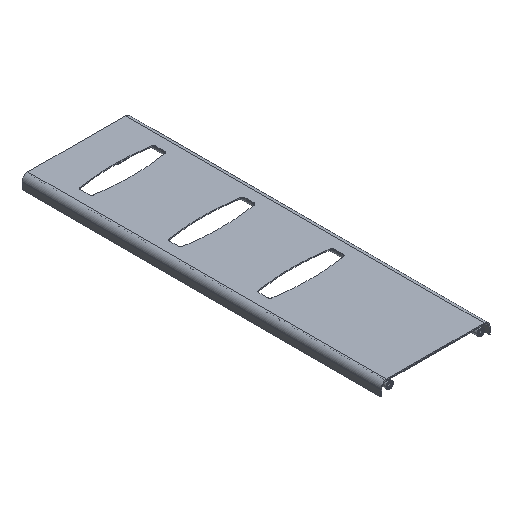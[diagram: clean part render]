
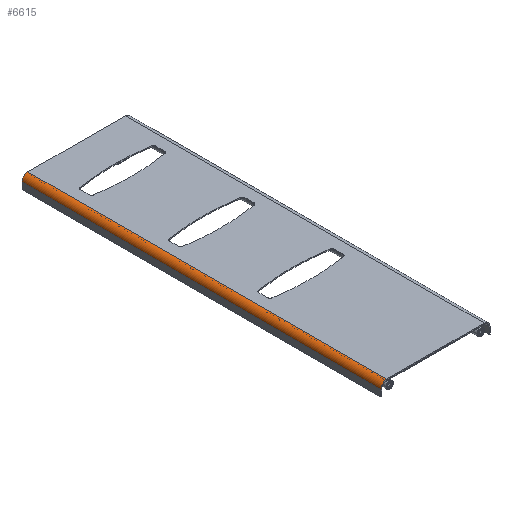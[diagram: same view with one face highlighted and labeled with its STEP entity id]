
A CAD part, isometric view. The second image highlights one B-rep face of the part: STEP entity #6615.
In plain terms, the highlighted cylindrical face has radius 30 mm (diameter 60 mm), a partial arc.
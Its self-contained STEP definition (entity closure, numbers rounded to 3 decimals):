
#197 = ORIENTED_EDGE ( 'NONE', *, *, #20736, .T. ) ;
#339 = AXIS2_PLACEMENT_3D ( 'NONE', #23395, #21950, #27155 ) ;
#469 = VECTOR ( 'NONE', #15738, 1000. ) ;
#2867 = CIRCLE ( 'NONE', #6428, 30. ) ;
#3113 = CARTESIAN_POINT ( 'NONE',  ( 245., -905., 0. ) ) ;
#3437 = EDGE_CURVE ( 'NONE', #23131, #21465, #2867, .T. ) ;
#4008 = VECTOR ( 'NONE', #30397, 1000. ) ;
#5094 = DIRECTION ( 'NONE',  ( 0., -1., 0. ) ) ;
#5482 = ORIENTED_EDGE ( 'NONE', *, *, #19735, .F. ) ;
#6428 = AXIS2_PLACEMENT_3D ( 'NONE', #12682, #5094, #29696 ) ;
#6495 = CARTESIAN_POINT ( 'NONE',  ( 275., 905., 30. ) ) ;
#6539 = FACE_OUTER_BOUND ( 'NONE', #16775, .T. ) ;
#6615 = ADVANCED_FACE ( 'NONE', ( #6539 ), #13790, .T. ) ;
#8777 = DIRECTION ( 'NONE',  ( 0., 0., -1. ) ) ;
#11317 = CARTESIAN_POINT ( 'NONE',  ( 245., 905., 0. ) ) ;
#12682 = CARTESIAN_POINT ( 'NONE',  ( 245., -905., 30. ) ) ;
#13343 = CARTESIAN_POINT ( 'NONE',  ( 245., 905., 30. ) ) ;
#13592 = EDGE_CURVE ( 'NONE', #17789, #23585, #27567, .T. ) ;
#13790 = CYLINDRICAL_SURFACE ( 'NONE', #339, 30. ) ;
#15738 = DIRECTION ( 'NONE',  ( 0., -1., 0. ) ) ;
#16579 = CARTESIAN_POINT ( 'NONE',  ( 245., 905., 0. ) ) ;
#16775 = EDGE_LOOP ( 'NONE', ( #16937, #5482, #23664, #197 ) ) ;
#16937 = ORIENTED_EDGE ( 'NONE', *, *, #3437, .F. ) ;
#16988 = AXIS2_PLACEMENT_3D ( 'NONE', #13343, #22960, #8777 ) ;
#17789 = VERTEX_POINT ( 'NONE', #16579 ) ;
#19735 = EDGE_CURVE ( 'NONE', #17789, #23131, #20937, .T. ) ;
#20543 = CARTESIAN_POINT ( 'NONE',  ( 275., -905., 30. ) ) ;
#20736 = EDGE_CURVE ( 'NONE', #23585, #21465, #27718, .T. ) ;
#20937 = LINE ( 'NONE', #11317, #4008 ) ;
#21465 = VERTEX_POINT ( 'NONE', #20543 ) ;
#21950 = DIRECTION ( 'NONE',  ( 0., -1., 0. ) ) ;
#22960 = DIRECTION ( 'NONE',  ( 0., -1., 0. ) ) ;
#23131 = VERTEX_POINT ( 'NONE', #3113 ) ;
#23150 = CARTESIAN_POINT ( 'NONE',  ( 275., 905., 30. ) ) ;
#23395 = CARTESIAN_POINT ( 'NONE',  ( 245., 905., 30. ) ) ;
#23585 = VERTEX_POINT ( 'NONE', #6495 ) ;
#23664 = ORIENTED_EDGE ( 'NONE', *, *, #13592, .T. ) ;
#27155 = DIRECTION ( 'NONE',  ( 0., 0., -1. ) ) ;
#27567 = CIRCLE ( 'NONE', #16988, 30. ) ;
#27718 = LINE ( 'NONE', #23150, #469 ) ;
#29696 = DIRECTION ( 'NONE',  ( 0., 0., -1. ) ) ;
#30397 = DIRECTION ( 'NONE',  ( 0., -1., 0. ) ) ;
